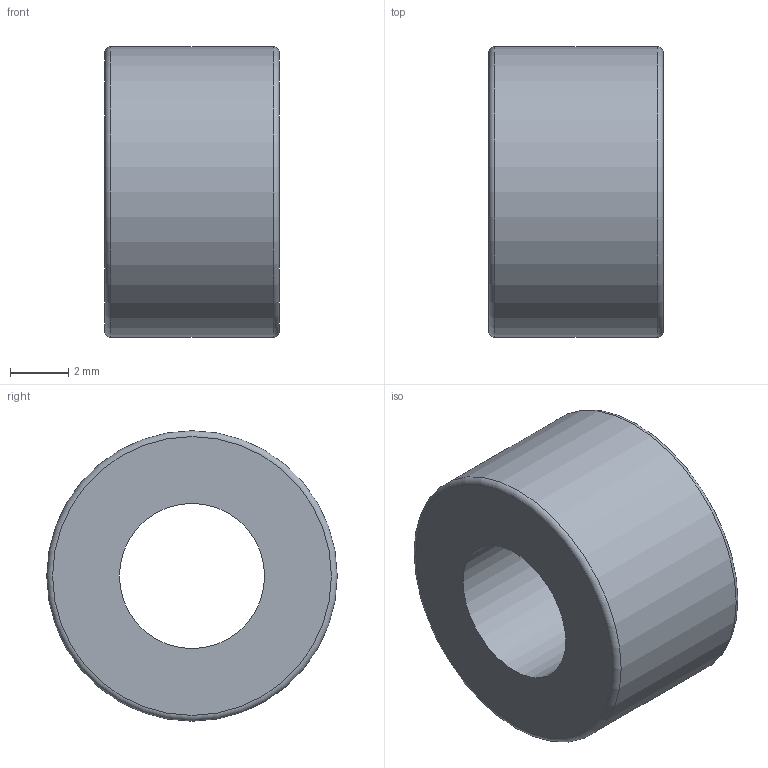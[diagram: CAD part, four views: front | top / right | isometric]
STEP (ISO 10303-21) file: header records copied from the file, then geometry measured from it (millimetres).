
FILE_DESCRIPTION(/* description */ (''),/* implementation_level */ '2;1');
FILE_NAME(/* name */ 'Aluminium Spacer 6mm.step',/* time_stamp */ '2025-04-22T13:03:32+05:30',/* author */ (''),/* organization */ (''),/* preprocessor_version */ 'ST-DEVELOPER v20.1',/* originating_system */ 'Autodesk Translation Framework v14.4.0.0',/* authorisation */ '');
FILE_SCHEMA (('AUTOMOTIVE_DESIGN { 1 0 10303 214 3 1 1 }'));
Length unit declared in the file: millimetre
Products named in the file (1): Aluminium Spacer 6mm
Bounding box: 6 x 10 x 10 mm (x, y, z)
Volume: 352.9 mm3; surface area: 395.1 mm2
Topology: 1 solids, 1 shells, 6 faces, 12 edges, 8 vertices
Faces by surface type: torus 2, cylinder 2, plane 2
Full cylindrical faces by diameter (mm): 5 x1, 10 x1
Entity records: 210 total; most frequent: DIRECTION 36, CARTESIAN_POINT 27, ORIENTED_EDGE 24, AXIS2_PLACEMENT_3D 17, EDGE_CURVE 12, CIRCLE 10, EDGE_LOOP 8, VERTEX_POINT 8
